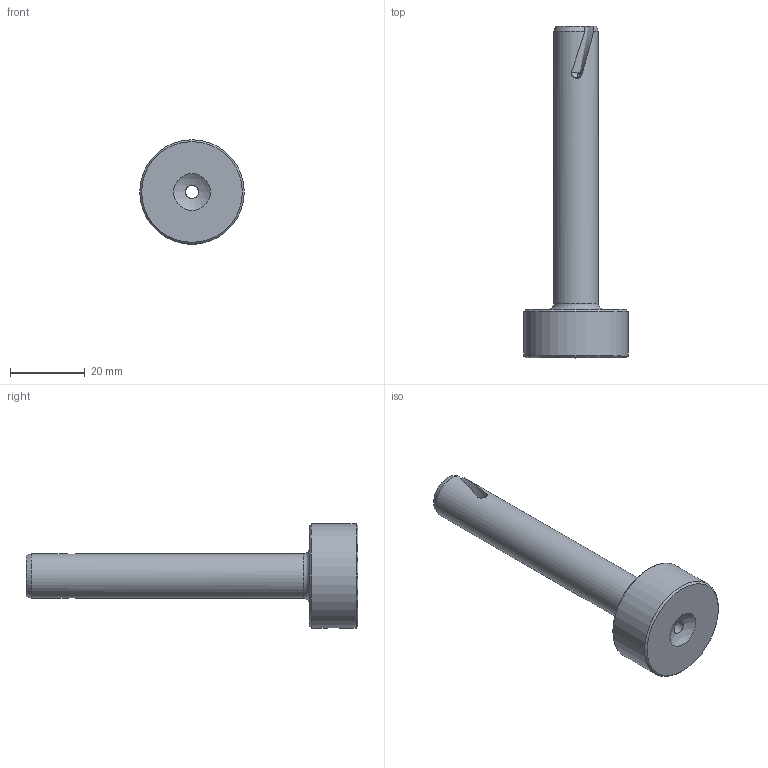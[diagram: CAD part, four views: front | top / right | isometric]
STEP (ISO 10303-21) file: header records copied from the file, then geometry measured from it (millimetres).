
FILE_DESCRIPTION (( 'STEP AP214' ), '1' );
FILE_NAME ('SB12.76.2.R1-2.STEP', '2023-03-14T08:39:12', ( '' ), ( '' ), 'SwSTEP 2.0', 'SolidWorks 2022', '' );
FILE_SCHEMA (( 'AUTOMOTIVE_DESIGN' ));
Length unit declared in the file: millimetre
Products named in the file (1): SB12.76.2.R1-2
Bounding box: 28 x 89 x 28 mm (x, y, z)
Volume: 14919.9 mm3; surface area: 6534.8 mm2
Topology: 1 solids, 1 shells, 35 faces, 96 edges, 61 vertices
Faces by surface type: bspline 17, cone 6, plane 5, cylinder 5, torus 1, sphere 1
Full cylindrical faces by diameter (mm): 4 x2, 12 x1, 28 x1
Entity records: 3255 total; most frequent: CARTESIAN_POINT 2608, ORIENTED_EDGE 150, EDGE_CURVE 75, DIRECTION 64, B_SPLINE_CURVE_WITH_KNOTS 61, VERTEX_POINT 55, EDGE_LOOP 48, FACE_OUTER_BOUND 40
